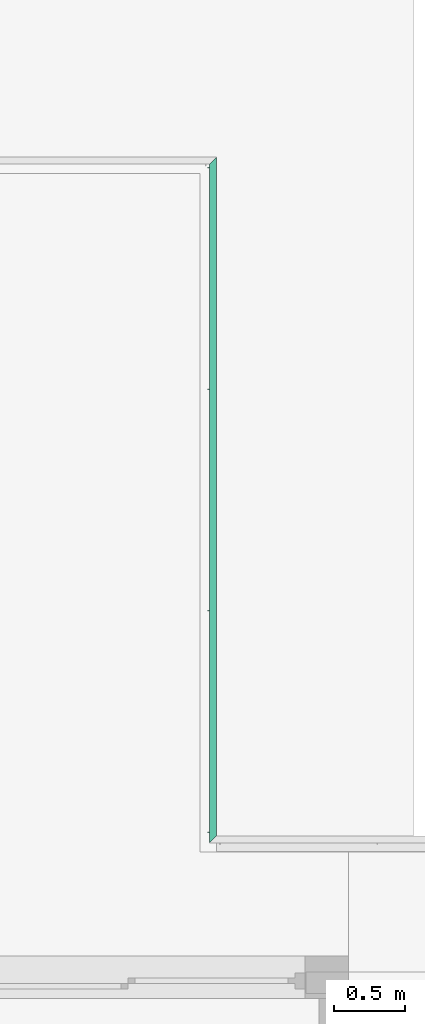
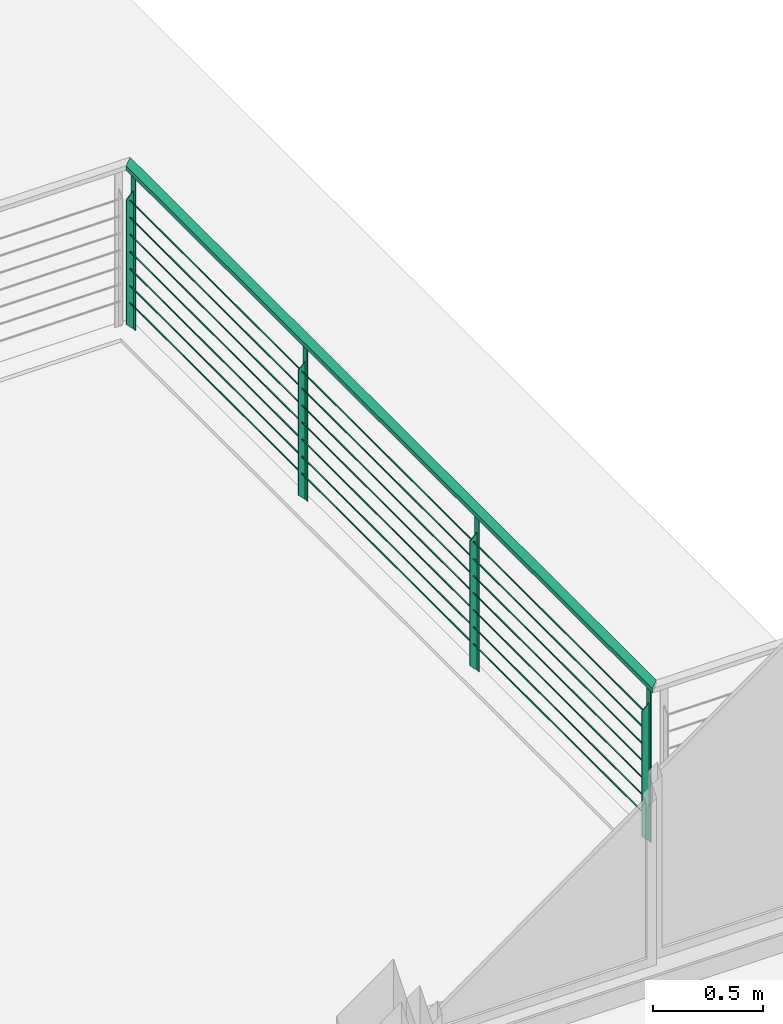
# One storey, part 24 of 24: 1 distribution element.
"""IFC2X3 building model written with IfcOpenShell, lengths in millimetres."""

from ifc_helpers import new_model, entity, si_unit, converted_unit, money_unit, direction, frame, origin_with_axes, place, context, subcontext, project, spatial, faceted_brep, material, type_object, element, save


model = new_model("IFC2X3")

# Units and contexts
model_context = context("Model", 3, precision=1e-05, world=origin_with_axes(), true_north=direction((0.0, 1.0)))
body_context = subcontext(model_context, "Body", "Model", "MODEL_VIEW")
ifc_project = project(units=[si_unit("LENGTHUNIT", "METRE", prefix="MILLI"), si_unit("AREAUNIT", "SQUARE_METRE"), si_unit("VOLUMEUNIT", "CUBIC_METRE"), converted_unit("PLANEANGLEUNIT", "DEGREE", entity("IfcPlaneAngleMeasure", 0.0174532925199), si_unit("PLANEANGLEUNIT", "RADIAN"), dimensions=[0, 0, 0, 0, 0, 0, 0]), si_unit("SOLIDANGLEUNIT", "STERADIAN"), money_unit("USD"), converted_unit("TIMEUNIT", "Year", entity("IfcTimeMeasure", 31556926.0), si_unit("TIMEUNIT", "SECOND"), dimensions=[0, 0, 0, 0, 0, 0, 0]), si_unit("MASSUNIT", "GRAM"), si_unit("THERMODYNAMICTEMPERATUREUNIT", "DEGREE_CELSIUS"), si_unit("LUMINOUSINTENSITYUNIT", "LUMEN")], contexts=[model_context])

# Site, building, storey
site_placement = place(None, origin_with_axes())
site = spatial("IfcSite", under=ifc_project, at=site_placement, Name="Grove Residential", CompositionType="ELEMENT")
building_placement = place(site_placement, origin_with_axes())
building = spatial("IfcBuilding", under=site, at=building_placement, Name="Building", CompositionType="ELEMENT")
storey_placement = place(building_placement, frame((0.0, 0.0, 3740.0), z_axis=(0.0, 0.0, 1.0), x_axis=(1.0, 0.0, 0.0)))
storey = spatial("IfcBuildingStorey", under=building, at=storey_placement, Name="First Floor", CompositionType="ELEMENT", Elevation=3740.0)

# Distribution element
ifc_material = material(Name="Background")
distribution_element_type = type_object("IfcDistributionElementType", Name="Rail Wired 02 20")
distribution_element_placement = place(storey_placement, frame((9225.0, 12775.0, -80.0), z_axis=(0.0, 0.0, 1.0), x_axis=(0.0, -1.0, 0.0)))
element("IfcDistributionElement", 1, at=distribution_element_placement, inside=storey, type_object=distribution_element_type, material=ifc_material, Name="FU - 001", context=body_context, shape_type="Brep", body=[
    faceted_brep([(-25.0, 25.0, 875.0), (-25.0, 25.0, 875.0), (-25.0, 25.0, 900.0), (-25.0, 25.0, 900.0), (4775.0, 25.0, 875.0), (4825.0, -25.0, 875.0), (4825.0, -25.0, 875.0), (25.0, -25.0, 875.0), (25.0, -25.0, 900.0), (4825.0, -25.0, 900.0), (4825.0, -25.0, 900.0), (4775.0, 25.0, 900.0)], [[[0, 1, 2, 3]], [[0, 4, 5, 6, 7, 1]], [[1, 7, 8, 2]], [[3, 2, 8, 9, 10, 11]], [[4, 0, 3, 11]], [[5, 4, 11, 10]], [[6, 5, 10, 9]], [[7, 6, 9, 8]]]),
    faceted_brep([(30.0, -2.0, 0.0), (70.0, -2.0, 0.0), (70.0, -2.0, 871.0), (30.0, -2.0, 871.0), (30.0, 2.0, 0.0), (70.0, 2.0, 0.0), (70.0, 2.0, 871.0), (30.0, 2.0, 871.0)], [[[0, 1, 2, 3]], [[0, 4, 5, 1]], [[1, 5, 6, 2]], [[3, 2, 6, 7]], [[4, 0, 3, 7]], [[5, 4, 7, 6]]]),
    faceted_brep([(52.0, -38.0, 36.0), (52.0, -38.0, 731.0), (48.0, -38.0, 731.0), (48.0, -38.0, 36.0), (52.0, -2.0, 0.0), (52.0, -2.0, 767.0), (48.0, -2.0, 767.0), (48.0, -2.0, 0.0)], [[[0, 1, 2, 3]], [[0, 4, 5, 1]], [[1, 5, 6, 2]], [[3, 2, 6, 7]], [[4, 0, 3, 7]], [[5, 4, 7, 6]]]),
    faceted_brep([(1596.66666667, -2.0, 0.0), (1636.66666667, -2.0, 0.0), (1636.66666667, -2.0, 871.0), (1596.66666667, -2.0, 871.0), (1596.66666667, 2.0, 0.0), (1636.66666667, 2.0, 0.0), (1636.66666667, 2.0, 871.0), (1596.66666667, 2.0, 871.0)], [[[0, 1, 2, 3]], [[0, 4, 5, 1]], [[1, 5, 6, 2]], [[3, 2, 6, 7]], [[4, 0, 3, 7]], [[5, 4, 7, 6]]]),
    faceted_brep([(1618.66666667, -38.0, 36.0), (1618.66666667, -38.0, 731.0), (1614.66666667, -38.0, 731.0), (1614.66666667, -38.0, 36.0), (1618.66666667, -2.0, 0.0), (1618.66666667, -2.0, 767.0), (1614.66666667, -2.0, 767.0), (1614.66666667, -2.0, 0.0)], [[[0, 1, 2, 3]], [[0, 4, 5, 1]], [[1, 5, 6, 2]], [[3, 2, 6, 7]], [[4, 0, 3, 7]], [[5, 4, 7, 6]]]),
    faceted_brep([(3163.33333333, -2.0, 0.0), (3203.33333333, -2.0, 0.0), (3203.33333333, -2.0, 871.0), (3163.33333333, -2.0, 871.0), (3163.33333333, 2.0, 0.0), (3203.33333333, 2.0, 0.0), (3203.33333333, 2.0, 871.0), (3163.33333333, 2.0, 871.0)], [[[0, 1, 2, 3]], [[0, 4, 5, 1]], [[1, 5, 6, 2]], [[3, 2, 6, 7]], [[4, 0, 3, 7]], [[5, 4, 7, 6]]]),
    faceted_brep([(3185.33333333, -38.0, 36.0), (3185.33333333, -38.0, 731.0), (3181.33333333, -38.0, 731.0), (3181.33333333, -38.0, 36.0), (3185.33333333, -2.0, 0.0), (3185.33333333, -2.0, 767.0), (3181.33333333, -2.0, 767.0), (3181.33333333, -2.0, 0.0)], [[[0, 1, 2, 3]], [[0, 4, 5, 1]], [[1, 5, 6, 2]], [[3, 2, 6, 7]], [[4, 0, 3, 7]], [[5, 4, 7, 6]]]),
    faceted_brep([(4730.0, -2.0, 0.0), (4770.0, -2.0, 0.0), (4770.0, -2.0, 871.0), (4730.0, -2.0, 871.0), (4730.0, 2.0, 0.0), (4770.0, 2.0, 0.0), (4770.0, 2.0, 871.0), (4730.0, 2.0, 871.0)], [[[0, 1, 2, 3]], [[0, 4, 5, 1]], [[1, 5, 6, 2]], [[3, 2, 6, 7]], [[4, 0, 3, 7]], [[5, 4, 7, 6]]]),
    faceted_brep([(4752.0, -38.0, 36.0), (4752.0, -38.0, 731.0), (4748.0, -38.0, 731.0), (4748.0, -38.0, 36.0), (4752.0, -2.0, 0.0), (4752.0, -2.0, 767.0), (4748.0, -2.0, 767.0), (4748.0, -2.0, 0.0)], [[[0, 1, 2, 3]], [[0, 4, 5, 1]], [[1, 5, 6, 2]], [[3, 2, 6, 7]], [[4, 0, 3, 7]], [[5, 4, 7, 6]]]),
    faceted_brep([(20.0, -15.0, 871.0), (80.0, -15.0, 871.0), (80.0, -15.0, 875.0), (20.0, -15.0, 875.0), (20.0, 15.0, 871.0), (80.0, 15.0, 871.0), (80.0, 15.0, 875.0), (20.0, 15.0, 875.0)], [[[0, 1, 2, 3]], [[0, 4, 5, 1]], [[1, 5, 6, 2]], [[3, 2, 6, 7]], [[4, 0, 3, 7]], [[5, 4, 7, 6]]]),
    faceted_brep([(1586.66666667, -15.0, 871.0), (1646.66666667, -15.0, 871.0), (1646.66666667, -15.0, 875.0), (1586.66666667, -15.0, 875.0), (1586.66666667, 15.0, 871.0), (1646.66666667, 15.0, 871.0), (1646.66666667, 15.0, 875.0), (1586.66666667, 15.0, 875.0)], [[[0, 1, 2, 3]], [[0, 4, 5, 1]], [[1, 5, 6, 2]], [[3, 2, 6, 7]], [[4, 0, 3, 7]], [[5, 4, 7, 6]]]),
    faceted_brep([(3153.33333333, -15.0, 871.0), (3213.33333333, -15.0, 871.0), (3213.33333333, -15.0, 875.0), (3153.33333333, -15.0, 875.0), (3153.33333333, 15.0, 871.0), (3213.33333333, 15.0, 871.0), (3213.33333333, 15.0, 875.0), (3153.33333333, 15.0, 875.0)], [[[0, 1, 2, 3]], [[0, 4, 5, 1]], [[1, 5, 6, 2]], [[3, 2, 6, 7]], [[4, 0, 3, 7]], [[5, 4, 7, 6]]]),
    faceted_brep([(4720.0, -15.0, 871.0), (4780.0, -15.0, 871.0), (4780.0, -15.0, 875.0), (4720.0, -15.0, 875.0), (4720.0, 15.0, 871.0), (4780.0, 15.0, 871.0), (4780.0, 15.0, 875.0), (4720.0, 15.0, 875.0)], [[[0, 1, 2, 3]], [[0, 4, 5, 1]], [[1, 5, 6, 2]], [[3, 2, 6, 7]], [[4, 0, 3, 7]], [[5, 4, 7, 6]]]),
    faceted_brep([(4730.0, -22.0, 155.0), (4730.0, -18.0, 155.0), (4750.0, -18.0, 155.0), (4750.0, -17.5, 155.0), (50.0, -17.5, 155.0), (50.0, -18.0, 155.0), (70.0, -18.0, 155.0), (70.0, -22.0, 155.0), (52.0, -22.0, 155.0), (52.0, -22.5, 155.0), (1614.66666667, -22.5, 155.0), (1614.66666667, -22.0, 155.0), (1596.66666667, -22.0, 155.0), (1596.66666667, -18.0, 155.0), (1636.66666667, -18.0, 155.0), (1636.66666667, -22.0, 155.0), (1618.66666667, -22.0, 155.0), (1618.66666667, -22.5, 155.0), (3181.33333333, -22.5, 155.0), (3181.33333333, -22.0, 155.0), (3163.33333333, -22.0, 155.0), (3163.33333333, -18.0, 155.0), (3203.33333333, -18.0, 155.0), (3203.33333333, -22.0, 155.0), (3185.33333333, -22.0, 155.0), (3185.33333333, -22.5, 155.0), (4748.0, -22.5, 155.0), (4748.0, -22.0, 155.0), (4730.0, -22.0, 150.0), (4730.0, -18.0, 150.0), (4750.0, -18.0, 150.0), (4750.0, -17.5, 150.0), (50.0, -17.5, 150.0), (50.0, -18.0, 150.0), (70.0, -18.0, 150.0), (70.0, -22.0, 150.0), (52.0, -22.0, 150.0), (52.0, -22.5, 150.0), (1614.66666667, -22.5, 150.0), (1614.66666667, -22.0, 150.0), (1596.66666667, -22.0, 150.0), (1596.66666667, -18.0, 150.0), (1636.66666667, -18.0, 150.0), (1636.66666667, -22.0, 150.0), (1618.66666667, -22.0, 150.0), (1618.66666667, -22.5, 150.0), (3181.33333333, -22.5, 150.0), (3181.33333333, -22.0, 150.0), (3163.33333333, -22.0, 150.0), (3163.33333333, -18.0, 150.0), (3203.33333333, -18.0, 150.0), (3203.33333333, -22.0, 150.0), (3185.33333333, -22.0, 150.0), (3185.33333333, -22.5, 150.0), (4748.0, -22.5, 150.0), (4748.0, -22.0, 150.0)], [[[0, 1, 2, 3, 4, 5, 6, 7, 8, 9, 10, 11, 12, 13, 14, 15, 16, 17, 18, 19, 20, 21, 22, 23, 24, 25, 26, 27]], [[1, 0, 28, 29]], [[30, 2, 1, 29]], [[2, 30, 31, 3]], [[3, 31, 32, 4]], [[33, 5, 4, 32]], [[6, 5, 33, 34]], [[7, 6, 34, 35]], [[36, 8, 7, 35]], [[9, 8, 36, 37]], [[38, 10, 9, 37]], [[39, 11, 10, 38]], [[11, 39, 40, 12]], [[13, 12, 40, 41]], [[14, 13, 41, 42]], [[15, 14, 42, 43]], [[44, 16, 15, 43]], [[17, 16, 44, 45]], [[46, 18, 17, 45]], [[47, 19, 18, 46]], [[19, 47, 48, 20]], [[21, 20, 48, 49]], [[22, 21, 49, 50]], [[23, 22, 50, 51]], [[52, 24, 23, 51]], [[25, 24, 52, 53]], [[25, 53, 54, 26]], [[55, 27, 26, 54]], [[0, 27, 55, 28]], [[28, 55, 54, 53, 52, 51, 50, 49, 48, 47, 46, 45, 44, 43, 42, 41, 40, 39, 38, 37, 36, 35, 34, 33, 32, 31, 30, 29]]]),
    faceted_brep([(4730.0, -22.0, 250.0), (4730.0, -18.0, 250.0), (4750.0, -18.0, 250.0), (4750.0, -17.5, 250.0), (50.0, -17.5, 250.0), (50.0, -18.0, 250.0), (70.0, -18.0, 250.0), (70.0, -22.0, 250.0), (52.0, -22.0, 250.0), (52.0, -22.5, 250.0), (1614.66666667, -22.5, 250.0), (1614.66666667, -22.0, 250.0), (1596.66666667, -22.0, 250.0), (1596.66666667, -18.0, 250.0), (1636.66666667, -18.0, 250.0), (1636.66666667, -22.0, 250.0), (1618.66666667, -22.0, 250.0), (1618.66666667, -22.5, 250.0), (3181.33333333, -22.5, 250.0), (3181.33333333, -22.0, 250.0), (3163.33333333, -22.0, 250.0), (3163.33333333, -18.0, 250.0), (3203.33333333, -18.0, 250.0), (3203.33333333, -22.0, 250.0), (3185.33333333, -22.0, 250.0), (3185.33333333, -22.5, 250.0), (4748.0, -22.5, 250.0), (4748.0, -22.0, 250.0), (4730.0, -22.0, 245.0), (4730.0, -18.0, 245.0), (4750.0, -18.0, 245.0), (4750.0, -17.5, 245.0), (50.0, -17.5, 245.0), (50.0, -18.0, 245.0), (70.0, -18.0, 245.0), (70.0, -22.0, 245.0), (52.0, -22.0, 245.0), (52.0, -22.5, 245.0), (1614.66666667, -22.5, 245.0), (1614.66666667, -22.0, 245.0), (1596.66666667, -22.0, 245.0), (1596.66666667, -18.0, 245.0), (1636.66666667, -18.0, 245.0), (1636.66666667, -22.0, 245.0), (1618.66666667, -22.0, 245.0), (1618.66666667, -22.5, 245.0), (3181.33333333, -22.5, 245.0), (3181.33333333, -22.0, 245.0), (3163.33333333, -22.0, 245.0), (3163.33333333, -18.0, 245.0), (3203.33333333, -18.0, 245.0), (3203.33333333, -22.0, 245.0), (3185.33333333, -22.0, 245.0), (3185.33333333, -22.5, 245.0), (4748.0, -22.5, 245.0), (4748.0, -22.0, 245.0)], [[[0, 1, 2, 3, 4, 5, 6, 7, 8, 9, 10, 11, 12, 13, 14, 15, 16, 17, 18, 19, 20, 21, 22, 23, 24, 25, 26, 27]], [[1, 0, 28, 29]], [[30, 2, 1, 29]], [[2, 30, 31, 3]], [[3, 31, 32, 4]], [[33, 5, 4, 32]], [[6, 5, 33, 34]], [[7, 6, 34, 35]], [[36, 8, 7, 35]], [[9, 8, 36, 37]], [[38, 10, 9, 37]], [[39, 11, 10, 38]], [[11, 39, 40, 12]], [[13, 12, 40, 41]], [[14, 13, 41, 42]], [[15, 14, 42, 43]], [[44, 16, 15, 43]], [[17, 16, 44, 45]], [[46, 18, 17, 45]], [[47, 19, 18, 46]], [[19, 47, 48, 20]], [[21, 20, 48, 49]], [[22, 21, 49, 50]], [[23, 22, 50, 51]], [[52, 24, 23, 51]], [[25, 24, 52, 53]], [[25, 53, 54, 26]], [[55, 27, 26, 54]], [[0, 27, 55, 28]], [[28, 55, 54, 53, 52, 51, 50, 49, 48, 47, 46, 45, 44, 43, 42, 41, 40, 39, 38, 37, 36, 35, 34, 33, 32, 31, 30, 29]]]),
    faceted_brep([(4730.0, -22.0, 345.0), (4730.0, -18.0, 345.0), (4750.0, -18.0, 345.0), (4750.0, -17.5, 345.0), (50.0, -17.5, 345.0), (50.0, -18.0, 345.0), (70.0, -18.0, 345.0), (70.0, -22.0, 345.0), (52.0, -22.0, 345.0), (52.0, -22.5, 345.0), (1614.66666667, -22.5, 345.0), (1614.66666667, -22.0, 345.0), (1596.66666667, -22.0, 345.0), (1596.66666667, -18.0, 345.0), (1636.66666667, -18.0, 345.0), (1636.66666667, -22.0, 345.0), (1618.66666667, -22.0, 345.0), (1618.66666667, -22.5, 345.0), (3181.33333333, -22.5, 345.0), (3181.33333333, -22.0, 345.0), (3163.33333333, -22.0, 345.0), (3163.33333333, -18.0, 345.0), (3203.33333333, -18.0, 345.0), (3203.33333333, -22.0, 345.0), (3185.33333333, -22.0, 345.0), (3185.33333333, -22.5, 345.0), (4748.0, -22.5, 345.0), (4748.0, -22.0, 345.0), (4730.0, -22.0, 340.0), (4730.0, -18.0, 340.0), (4750.0, -18.0, 340.0), (4750.0, -17.5, 340.0), (50.0, -17.5, 340.0), (50.0, -18.0, 340.0), (70.0, -18.0, 340.0), (70.0, -22.0, 340.0), (52.0, -22.0, 340.0), (52.0, -22.5, 340.0), (1614.66666667, -22.5, 340.0), (1614.66666667, -22.0, 340.0), (1596.66666667, -22.0, 340.0), (1596.66666667, -18.0, 340.0), (1636.66666667, -18.0, 340.0), (1636.66666667, -22.0, 340.0), (1618.66666667, -22.0, 340.0), (1618.66666667, -22.5, 340.0), (3181.33333333, -22.5, 340.0), (3181.33333333, -22.0, 340.0), (3163.33333333, -22.0, 340.0), (3163.33333333, -18.0, 340.0), (3203.33333333, -18.0, 340.0), (3203.33333333, -22.0, 340.0), (3185.33333333, -22.0, 340.0), (3185.33333333, -22.5, 340.0), (4748.0, -22.5, 340.0), (4748.0, -22.0, 340.0)], [[[0, 1, 2, 3, 4, 5, 6, 7, 8, 9, 10, 11, 12, 13, 14, 15, 16, 17, 18, 19, 20, 21, 22, 23, 24, 25, 26, 27]], [[1, 0, 28, 29]], [[30, 2, 1, 29]], [[2, 30, 31, 3]], [[3, 31, 32, 4]], [[33, 5, 4, 32]], [[6, 5, 33, 34]], [[7, 6, 34, 35]], [[36, 8, 7, 35]], [[9, 8, 36, 37]], [[38, 10, 9, 37]], [[39, 11, 10, 38]], [[11, 39, 40, 12]], [[13, 12, 40, 41]], [[14, 13, 41, 42]], [[15, 14, 42, 43]], [[44, 16, 15, 43]], [[17, 16, 44, 45]], [[46, 18, 17, 45]], [[47, 19, 18, 46]], [[19, 47, 48, 20]], [[21, 20, 48, 49]], [[22, 21, 49, 50]], [[23, 22, 50, 51]], [[52, 24, 23, 51]], [[25, 24, 52, 53]], [[25, 53, 54, 26]], [[55, 27, 26, 54]], [[0, 27, 55, 28]], [[28, 55, 54, 53, 52, 51, 50, 49, 48, 47, 46, 45, 44, 43, 42, 41, 40, 39, 38, 37, 36, 35, 34, 33, 32, 31, 30, 29]]]),
    faceted_brep([(4730.0, -22.0, 440.0), (4730.0, -18.0, 440.0), (4750.0, -18.0, 440.0), (4750.0, -17.5, 440.0), (50.0, -17.5, 440.0), (50.0, -18.0, 440.0), (70.0, -18.0, 440.0), (70.0, -22.0, 440.0), (52.0, -22.0, 440.0), (52.0, -22.5, 440.0), (1614.66666667, -22.5, 440.0), (1614.66666667, -22.0, 440.0), (1596.66666667, -22.0, 440.0), (1596.66666667, -18.0, 440.0), (1636.66666667, -18.0, 440.0), (1636.66666667, -22.0, 440.0), (1618.66666667, -22.0, 440.0), (1618.66666667, -22.5, 440.0), (3181.33333333, -22.5, 440.0), (3181.33333333, -22.0, 440.0), (3163.33333333, -22.0, 440.0), (3163.33333333, -18.0, 440.0), (3203.33333333, -18.0, 440.0), (3203.33333333, -22.0, 440.0), (3185.33333333, -22.0, 440.0), (3185.33333333, -22.5, 440.0), (4748.0, -22.5, 440.0), (4748.0, -22.0, 440.0), (4730.0, -22.0, 435.0), (4730.0, -18.0, 435.0), (4750.0, -18.0, 435.0), (4750.0, -17.5, 435.0), (50.0, -17.5, 435.0), (50.0, -18.0, 435.0), (70.0, -18.0, 435.0), (70.0, -22.0, 435.0), (52.0, -22.0, 435.0), (52.0, -22.5, 435.0), (1614.66666667, -22.5, 435.0), (1614.66666667, -22.0, 435.0), (1596.66666667, -22.0, 435.0), (1596.66666667, -18.0, 435.0), (1636.66666667, -18.0, 435.0), (1636.66666667, -22.0, 435.0), (1618.66666667, -22.0, 435.0), (1618.66666667, -22.5, 435.0), (3181.33333333, -22.5, 435.0), (3181.33333333, -22.0, 435.0), (3163.33333333, -22.0, 435.0), (3163.33333333, -18.0, 435.0), (3203.33333333, -18.0, 435.0), (3203.33333333, -22.0, 435.0), (3185.33333333, -22.0, 435.0), (3185.33333333, -22.5, 435.0), (4748.0, -22.5, 435.0), (4748.0, -22.0, 435.0)], [[[0, 1, 2, 3, 4, 5, 6, 7, 8, 9, 10, 11, 12, 13, 14, 15, 16, 17, 18, 19, 20, 21, 22, 23, 24, 25, 26, 27]], [[1, 0, 28, 29]], [[30, 2, 1, 29]], [[2, 30, 31, 3]], [[3, 31, 32, 4]], [[33, 5, 4, 32]], [[6, 5, 33, 34]], [[7, 6, 34, 35]], [[36, 8, 7, 35]], [[9, 8, 36, 37]], [[38, 10, 9, 37]], [[39, 11, 10, 38]], [[11, 39, 40, 12]], [[13, 12, 40, 41]], [[14, 13, 41, 42]], [[15, 14, 42, 43]], [[44, 16, 15, 43]], [[17, 16, 44, 45]], [[46, 18, 17, 45]], [[47, 19, 18, 46]], [[19, 47, 48, 20]], [[21, 20, 48, 49]], [[22, 21, 49, 50]], [[23, 22, 50, 51]], [[52, 24, 23, 51]], [[25, 24, 52, 53]], [[25, 53, 54, 26]], [[55, 27, 26, 54]], [[0, 27, 55, 28]], [[28, 55, 54, 53, 52, 51, 50, 49, 48, 47, 46, 45, 44, 43, 42, 41, 40, 39, 38, 37, 36, 35, 34, 33, 32, 31, 30, 29]]]),
    faceted_brep([(4730.0, -22.0, 535.0), (4730.0, -18.0, 535.0), (4750.0, -18.0, 535.0), (4750.0, -17.5, 535.0), (50.0, -17.5, 535.0), (50.0, -18.0, 535.0), (70.0, -18.0, 535.0), (70.0, -22.0, 535.0), (52.0, -22.0, 535.0), (52.0, -22.5, 535.0), (1614.66666667, -22.5, 535.0), (1614.66666667, -22.0, 535.0), (1596.66666667, -22.0, 535.0), (1596.66666667, -18.0, 535.0), (1636.66666667, -18.0, 535.0), (1636.66666667, -22.0, 535.0), (1618.66666667, -22.0, 535.0), (1618.66666667, -22.5, 535.0), (3181.33333333, -22.5, 535.0), (3181.33333333, -22.0, 535.0), (3163.33333333, -22.0, 535.0), (3163.33333333, -18.0, 535.0), (3203.33333333, -18.0, 535.0), (3203.33333333, -22.0, 535.0), (3185.33333333, -22.0, 535.0), (3185.33333333, -22.5, 535.0), (4748.0, -22.5, 535.0), (4748.0, -22.0, 535.0), (4730.0, -22.0, 530.0), (4730.0, -18.0, 530.0), (4750.0, -18.0, 530.0), (4750.0, -17.5, 530.0), (50.0, -17.5, 530.0), (50.0, -18.0, 530.0), (70.0, -18.0, 530.0), (70.0, -22.0, 530.0), (52.0, -22.0, 530.0), (52.0, -22.5, 530.0), (1614.66666667, -22.5, 530.0), (1614.66666667, -22.0, 530.0), (1596.66666667, -22.0, 530.0), (1596.66666667, -18.0, 530.0), (1636.66666667, -18.0, 530.0), (1636.66666667, -22.0, 530.0), (1618.66666667, -22.0, 530.0), (1618.66666667, -22.5, 530.0), (3181.33333333, -22.5, 530.0), (3181.33333333, -22.0, 530.0), (3163.33333333, -22.0, 530.0), (3163.33333333, -18.0, 530.0), (3203.33333333, -18.0, 530.0), (3203.33333333, -22.0, 530.0), (3185.33333333, -22.0, 530.0), (3185.33333333, -22.5, 530.0), (4748.0, -22.5, 530.0), (4748.0, -22.0, 530.0)], [[[0, 1, 2, 3, 4, 5, 6, 7, 8, 9, 10, 11, 12, 13, 14, 15, 16, 17, 18, 19, 20, 21, 22, 23, 24, 25, 26, 27]], [[1, 0, 28, 29]], [[30, 2, 1, 29]], [[2, 30, 31, 3]], [[3, 31, 32, 4]], [[33, 5, 4, 32]], [[6, 5, 33, 34]], [[7, 6, 34, 35]], [[36, 8, 7, 35]], [[9, 8, 36, 37]], [[38, 10, 9, 37]], [[39, 11, 10, 38]], [[11, 39, 40, 12]], [[13, 12, 40, 41]], [[14, 13, 41, 42]], [[15, 14, 42, 43]], [[44, 16, 15, 43]], [[17, 16, 44, 45]], [[46, 18, 17, 45]], [[47, 19, 18, 46]], [[19, 47, 48, 20]], [[21, 20, 48, 49]], [[22, 21, 49, 50]], [[23, 22, 50, 51]], [[52, 24, 23, 51]], [[25, 24, 52, 53]], [[25, 53, 54, 26]], [[55, 27, 26, 54]], [[0, 27, 55, 28]], [[28, 55, 54, 53, 52, 51, 50, 49, 48, 47, 46, 45, 44, 43, 42, 41, 40, 39, 38, 37, 36, 35, 34, 33, 32, 31, 30, 29]]]),
    faceted_brep([(4730.0, -22.0, 630.0), (4730.0, -18.0, 630.0), (4750.0, -18.0, 630.0), (4750.0, -17.5, 630.0), (50.0, -17.5, 630.0), (50.0, -18.0, 630.0), (70.0, -18.0, 630.0), (70.0, -22.0, 630.0), (52.0, -22.0, 630.0), (52.0, -22.5, 630.0), (1614.66666667, -22.5, 630.0), (1614.66666667, -22.0, 630.0), (1596.66666667, -22.0, 630.0), (1596.66666667, -18.0, 630.0), (1636.66666667, -18.0, 630.0), (1636.66666667, -22.0, 630.0), (1618.66666667, -22.0, 630.0), (1618.66666667, -22.5, 630.0), (3181.33333333, -22.5, 630.0), (3181.33333333, -22.0, 630.0), (3163.33333333, -22.0, 630.0), (3163.33333333, -18.0, 630.0), (3203.33333333, -18.0, 630.0), (3203.33333333, -22.0, 630.0), (3185.33333333, -22.0, 630.0), (3185.33333333, -22.5, 630.0), (4748.0, -22.5, 630.0), (4748.0, -22.0, 630.0), (4730.0, -22.0, 625.0), (4730.0, -18.0, 625.0), (4750.0, -18.0, 625.0), (4750.0, -17.5, 625.0), (50.0, -17.5, 625.0), (50.0, -18.0, 625.0), (70.0, -18.0, 625.0), (70.0, -22.0, 625.0), (52.0, -22.0, 625.0), (52.0, -22.5, 625.0), (1614.66666667, -22.5, 625.0), (1614.66666667, -22.0, 625.0), (1596.66666667, -22.0, 625.0), (1596.66666667, -18.0, 625.0), (1636.66666667, -18.0, 625.0), (1636.66666667, -22.0, 625.0), (1618.66666667, -22.0, 625.0), (1618.66666667, -22.5, 625.0), (3181.33333333, -22.5, 625.0), (3181.33333333, -22.0, 625.0), (3163.33333333, -22.0, 625.0), (3163.33333333, -18.0, 625.0), (3203.33333333, -18.0, 625.0), (3203.33333333, -22.0, 625.0), (3185.33333333, -22.0, 625.0), (3185.33333333, -22.5, 625.0), (4748.0, -22.5, 625.0), (4748.0, -22.0, 625.0)], [[[0, 1, 2, 3, 4, 5, 6, 7, 8, 9, 10, 11, 12, 13, 14, 15, 16, 17, 18, 19, 20, 21, 22, 23, 24, 25, 26, 27]], [[1, 0, 28, 29]], [[30, 2, 1, 29]], [[2, 30, 31, 3]], [[3, 31, 32, 4]], [[33, 5, 4, 32]], [[6, 5, 33, 34]], [[7, 6, 34, 35]], [[36, 8, 7, 35]], [[9, 8, 36, 37]], [[38, 10, 9, 37]], [[39, 11, 10, 38]], [[11, 39, 40, 12]], [[13, 12, 40, 41]], [[14, 13, 41, 42]], [[15, 14, 42, 43]], [[44, 16, 15, 43]], [[17, 16, 44, 45]], [[46, 18, 17, 45]], [[47, 19, 18, 46]], [[19, 47, 48, 20]], [[21, 20, 48, 49]], [[22, 21, 49, 50]], [[23, 22, 50, 51]], [[52, 24, 23, 51]], [[25, 24, 52, 53]], [[25, 53, 54, 26]], [[55, 27, 26, 54]], [[0, 27, 55, 28]], [[28, 55, 54, 53, 52, 51, 50, 49, 48, 47, 46, 45, 44, 43, 42, 41, 40, 39, 38, 37, 36, 35, 34, 33, 32, 31, 30, 29]]]),
    faceted_brep([(4730.0, -22.0, 725.0), (4730.0, -18.0, 725.0), (4750.0, -18.0, 725.0), (4750.0, -17.5, 725.0), (50.0, -17.5, 725.0), (50.0, -18.0, 725.0), (70.0, -18.0, 725.0), (70.0, -22.0, 725.0), (52.0, -22.0, 725.0), (52.0, -22.5, 725.0), (1614.66666667, -22.5, 725.0), (1614.66666667, -22.0, 725.0), (1596.66666667, -22.0, 725.0), (1596.66666667, -18.0, 725.0), (1636.66666667, -18.0, 725.0), (1636.66666667, -22.0, 725.0), (1618.66666667, -22.0, 725.0), (1618.66666667, -22.5, 725.0), (3181.33333333, -22.5, 725.0), (3181.33333333, -22.0, 725.0), (3163.33333333, -22.0, 725.0), (3163.33333333, -18.0, 725.0), (3203.33333333, -18.0, 725.0), (3203.33333333, -22.0, 725.0), (3185.33333333, -22.0, 725.0), (3185.33333333, -22.5, 725.0), (4748.0, -22.5, 725.0), (4748.0, -22.0, 725.0), (4730.0, -22.0, 720.0), (4730.0, -18.0, 720.0), (4750.0, -18.0, 720.0), (4750.0, -17.5, 720.0), (50.0, -17.5, 720.0), (50.0, -18.0, 720.0), (70.0, -18.0, 720.0), (70.0, -22.0, 720.0), (52.0, -22.0, 720.0), (52.0, -22.5, 720.0), (1614.66666667, -22.5, 720.0), (1614.66666667, -22.0, 720.0), (1596.66666667, -22.0, 720.0), (1596.66666667, -18.0, 720.0), (1636.66666667, -18.0, 720.0), (1636.66666667, -22.0, 720.0), (1618.66666667, -22.0, 720.0), (1618.66666667, -22.5, 720.0), (3181.33333333, -22.5, 720.0), (3181.33333333, -22.0, 720.0), (3163.33333333, -22.0, 720.0), (3163.33333333, -18.0, 720.0), (3203.33333333, -18.0, 720.0), (3203.33333333, -22.0, 720.0), (3185.33333333, -22.0, 720.0), (3185.33333333, -22.5, 720.0), (4748.0, -22.5, 720.0), (4748.0, -22.0, 720.0)], [[[0, 1, 2, 3, 4, 5, 6, 7, 8, 9, 10, 11, 12, 13, 14, 15, 16, 17, 18, 19, 20, 21, 22, 23, 24, 25, 26, 27]], [[1, 0, 28, 29]], [[30, 2, 1, 29]], [[2, 30, 31, 3]], [[3, 31, 32, 4]], [[33, 5, 4, 32]], [[6, 5, 33, 34]], [[7, 6, 34, 35]], [[36, 8, 7, 35]], [[9, 8, 36, 37]], [[38, 10, 9, 37]], [[39, 11, 10, 38]], [[11, 39, 40, 12]], [[13, 12, 40, 41]], [[14, 13, 41, 42]], [[15, 14, 42, 43]], [[44, 16, 15, 43]], [[17, 16, 44, 45]], [[46, 18, 17, 45]], [[47, 19, 18, 46]], [[19, 47, 48, 20]], [[21, 20, 48, 49]], [[22, 21, 49, 50]], [[23, 22, 50, 51]], [[52, 24, 23, 51]], [[25, 24, 52, 53]], [[25, 53, 54, 26]], [[55, 27, 26, 54]], [[0, 27, 55, 28]], [[28, 55, 54, 53, 52, 51, 50, 49, 48, 47, 46, 45, 44, 43, 42, 41, 40, 39, 38, 37, 36, 35, 34, 33, 32, 31, 30, 29]]]),
])

save(model, "model.ifc")
